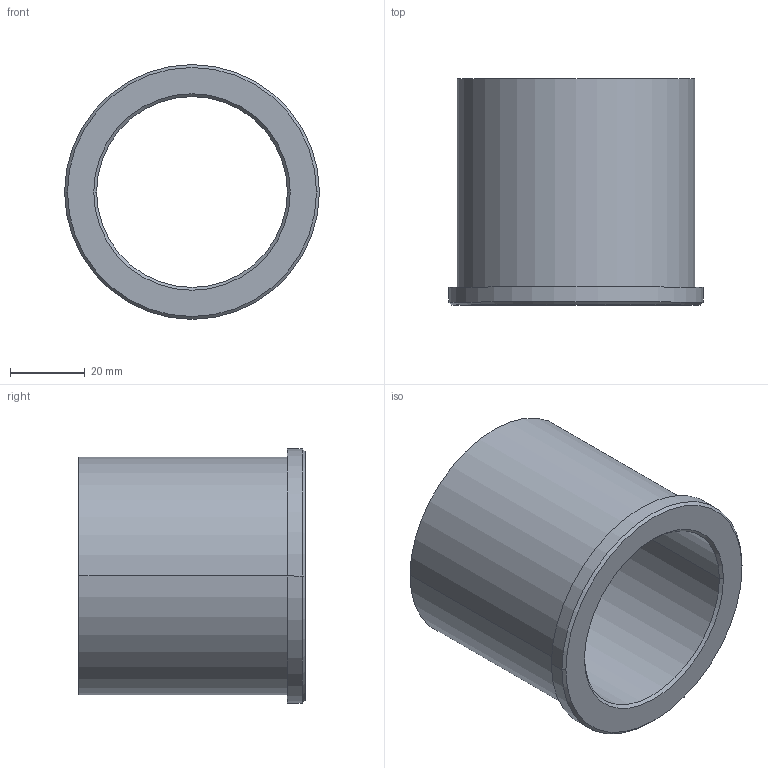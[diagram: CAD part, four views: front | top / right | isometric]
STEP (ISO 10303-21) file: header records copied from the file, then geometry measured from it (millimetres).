
FILE_DESCRIPTION (( 'STEP AP203' ), '1' );
FILE_NAME ('LBB 16-23.step', '2014-09-14T01:19:48', ( '' ), ( '' ), 'SwSTEP 2.0', 'SolidWorks 2009', '' );
FILE_SCHEMA (( 'CONFIG_CONTROL_DESIGN' ));
Length unit declared in the file: inch
Products named in the file (1): LBB 16-23
Bounding box: 68 x 60.33 x 68 mm (x, y, z)
Volume: 70256.3 mm3; surface area: 24673.4 mm2
Topology: 1 solids, 1 shells, 15 faces, 30 edges, 18 vertices
Faces by surface type: cylinder 6, cone 4, plane 3, torus 2
Entity records: 479 total; most frequent: DIRECTION 82, CARTESIAN_POINT 64, ORIENTED_EDGE 60, AXIS2_PLACEMENT_3D 36, EDGE_CURVE 30, CIRCLE 20, EDGE_LOOP 18, VERTEX_POINT 18
